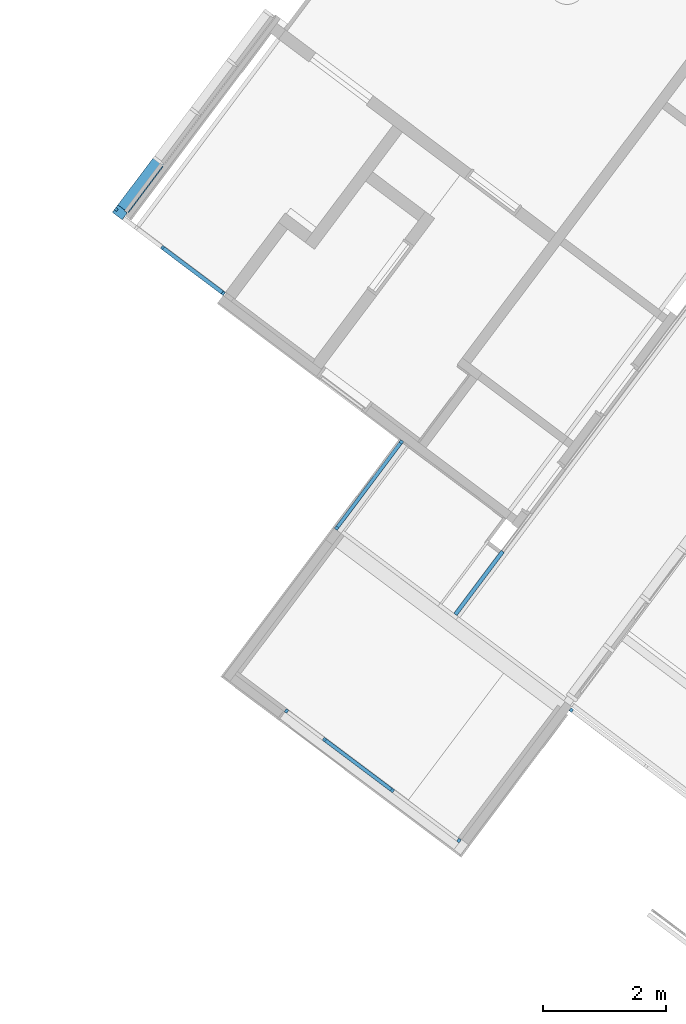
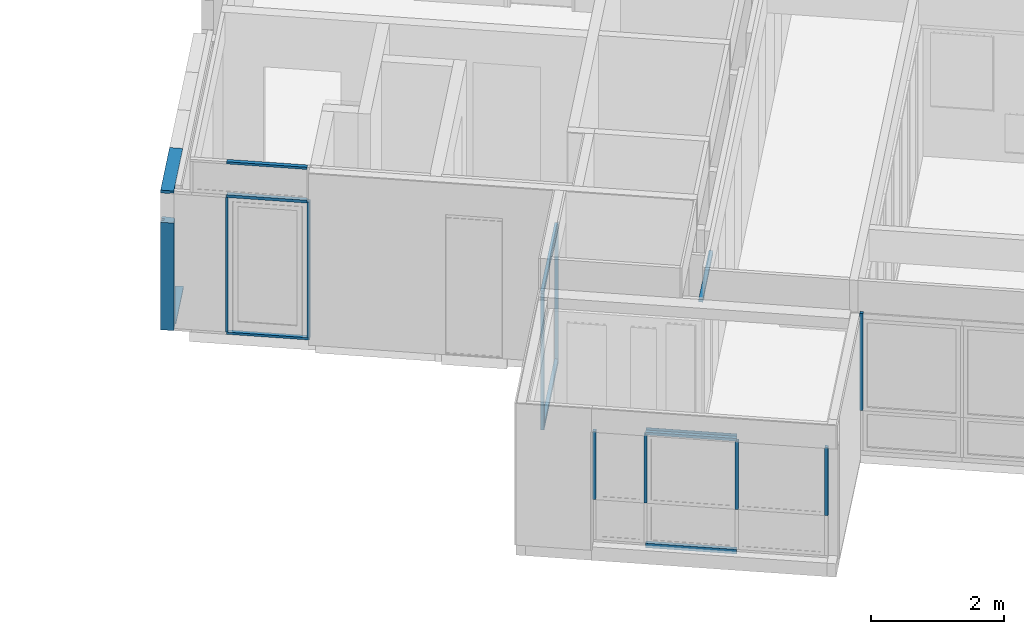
# One storey, part 8 of 243: 20 members, 6 elements without a shape of their own.
"""IFC2X3 building model written with IfcOpenShell, lengths in metres."""

from ifc_helpers import new_model, entity, si_unit, converted_unit, derived_unit, direction, frame, frame_2d, origin, origin_2d_with_axis, place, context, subcontext, project, spatial, polyline, circle_curve, parameter, trimmed, segment, composite_curve, rectangle, outline, extrude, source, transform, mapped, material, type_object, type_shapes, element, aggregate, save


model = new_model("IFC2X3")

# Units and contexts
model_context = context("Model", 3, precision=1e-05, world=origin(), true_north=direction((6.123031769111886e-17, 1.0)))
body_context = subcontext(model_context, "Body", "Model", "MODEL_VIEW")
ifc_project = project(units=[si_unit("LENGTHUNIT", "METRE"), si_unit("AREAUNIT", "SQUARE_METRE"), si_unit("VOLUMEUNIT", "CUBIC_METRE"), converted_unit("PLANEANGLEUNIT", "DEGREE", entity("IfcRatioMeasure", 0.017453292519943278), si_unit("PLANEANGLEUNIT", "RADIAN"), dimensions=[0, 0, 0, 0, 0, 0, 0]), si_unit("MASSUNIT", "GRAM", prefix="KILO"), derived_unit("MASSDENSITYUNIT", [(si_unit("MASSUNIT", "GRAM", prefix="KILO"), 1), (si_unit("LENGTHUNIT", "METRE"), -3)]), derived_unit("IONCONCENTRATIONUNIT", [(si_unit("MASSUNIT", "GRAM", prefix="KILO"), 1), (si_unit("LENGTHUNIT", "METRE"), -3)]), derived_unit("MOMENTOFINERTIAUNIT", [(si_unit("LENGTHUNIT", "METRE"), 4)]), si_unit("TIMEUNIT", "SECOND"), si_unit("FREQUENCYUNIT", "HERTZ"), si_unit("THERMODYNAMICTEMPERATUREUNIT", "DEGREE_CELSIUS"), derived_unit("THERMALTRANSMITTANCEUNIT", [(si_unit("MASSUNIT", "GRAM", prefix="KILO"), 1), (si_unit("THERMODYNAMICTEMPERATUREUNIT", "KELVIN"), -1), (si_unit("TIMEUNIT", "SECOND"), -3)]), derived_unit("THERMALCONDUCTANCEUNIT", [(si_unit("MASSUNIT", "GRAM", prefix="KILO"), 1), (si_unit("THERMODYNAMICTEMPERATUREUNIT", "KELVIN"), -1), (si_unit("TIMEUNIT", "SECOND"), -3), (si_unit("LENGTHUNIT", "METRE"), 1)]), derived_unit("VOLUMETRICFLOWRATEUNIT", [(si_unit("LENGTHUNIT", "METRE"), 3), (si_unit("TIMEUNIT", "SECOND"), -1)]), derived_unit("MASSFLOWRATEUNIT", [(si_unit("MASSUNIT", "GRAM", prefix="KILO"), 1), (si_unit("TIMEUNIT", "SECOND"), -1)]), derived_unit("ROTATIONALFREQUENCYUNIT", [(si_unit("TIMEUNIT", "SECOND"), -1)]), si_unit("ELECTRICCURRENTUNIT", "AMPERE"), si_unit("ELECTRICVOLTAGEUNIT", "VOLT"), si_unit("POWERUNIT", "WATT"), si_unit("FORCEUNIT", "NEWTON", prefix="KILO"), si_unit("ILLUMINANCEUNIT", "LUX"), si_unit("LUMINOUSFLUXUNIT", "LUMEN"), si_unit("LUMINOUSINTENSITYUNIT", "CANDELA"), derived_unit("USERDEFINED", [(si_unit("MASSUNIT", "GRAM", prefix="KILO"), -1), (si_unit("LENGTHUNIT", "METRE"), -2), (si_unit("TIMEUNIT", "SECOND"), 3), (si_unit("LUMINOUSFLUXUNIT", "LUMEN"), 1)]), derived_unit("USERDEFINED", [(si_unit("MASSUNIT", "GRAM", prefix="KILO"), 1), (si_unit("TIMEUNIT", "SECOND"), -3), (si_unit("LENGTHUNIT", "METRE"), 3), (si_unit("ELECTRICCURRENTUNIT", "AMPERE"), -2)]), derived_unit("SOUNDPOWERUNIT", [(si_unit("MASSUNIT", "GRAM", prefix="KILO"), 1), (si_unit("TIMEUNIT", "SECOND"), -3), (si_unit("LENGTHUNIT", "METRE"), 2)]), derived_unit("SOUNDPRESSUREUNIT", [(si_unit("MASSUNIT", "GRAM", prefix="KILO"), 1), (si_unit("LENGTHUNIT", "METRE"), -1), (si_unit("TIMEUNIT", "SECOND"), -2)]), derived_unit("LINEARVELOCITYUNIT", [(si_unit("LENGTHUNIT", "METRE"), 1), (si_unit("TIMEUNIT", "SECOND"), -1)]), si_unit("PRESSUREUNIT", "PASCAL"), derived_unit("USERDEFINED", [(si_unit("MASSUNIT", "GRAM", prefix="KILO"), 1), (si_unit("LENGTHUNIT", "METRE"), -2), (si_unit("TIMEUNIT", "SECOND"), -2)]), derived_unit("LINEARFORCEUNIT", [(si_unit("MASSUNIT", "GRAM", prefix="KILO"), 1), (si_unit("TIMEUNIT", "SECOND"), -2)]), derived_unit("PLANARFORCEUNIT", [(si_unit("MASSUNIT", "GRAM", prefix="KILO"), 1), (si_unit("LENGTHUNIT", "METRE"), -1), (si_unit("TIMEUNIT", "SECOND"), -2)]), derived_unit("SPECIFICHEATCAPACITYUNIT", [(si_unit("THERMODYNAMICTEMPERATUREUNIT", "KELVIN"), -1), (si_unit("LENGTHUNIT", "METRE"), 2), (si_unit("TIMEUNIT", "SECOND"), -2)]), derived_unit("HEATINGVALUEUNIT", [(si_unit("LENGTHUNIT", "METRE"), 2), (si_unit("TIMEUNIT", "SECOND"), -2)]), derived_unit("VAPORPERMEABILITYUNIT", [(si_unit("LENGTHUNIT", "METRE"), -1), (si_unit("TIMEUNIT", "SECOND"), 1)]), derived_unit("DYNAMICVISCOSITYUNIT", [(si_unit("MASSUNIT", "GRAM", prefix="KILO"), 1), (si_unit("TIMEUNIT", "SECOND"), -1), (si_unit("LENGTHUNIT", "METRE"), -1)]), derived_unit("THERMALEXPANSIONCOEFFICIENTUNIT", [(si_unit("THERMODYNAMICTEMPERATUREUNIT", "KELVIN"), -1)]), derived_unit("MODULUSOFELASTICITYUNIT", [(si_unit("MASSUNIT", "GRAM", prefix="KILO"), 1), (si_unit("LENGTHUNIT", "METRE"), -1), (si_unit("TIMEUNIT", "SECOND"), -2)]), derived_unit("ISOTHERMALMOISTURECAPACITYUNIT", [(si_unit("LENGTHUNIT", "METRE"), 3), (si_unit("MASSUNIT", "GRAM", prefix="KILO"), -1)]), derived_unit("MOISTUREDIFFUSIVITYUNIT", [(si_unit("TIMEUNIT", "SECOND"), -1), (si_unit("LENGTHUNIT", "METRE"), 2)])], contexts=[model_context])

# Site, building, storey
site_placement = place(None, frame((0.0, 0.0, 235.0), z_axis=(0.0, 0.0, 1.0), x_axis=(-0.7996477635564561, 0.6004693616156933, 0.0)))
site = spatial("IfcSite", under=ifc_project, at=site_placement, Name="Default", CompositionType="ELEMENT")
building_placement = place(site_placement, origin())
building = spatial("IfcBuilding", under=site, at=building_placement, CompositionType="ELEMENT")
storey_placement = place(building_placement, origin())
storey = spatial("IfcBuildingStorey", under=building, at=storey_placement, Name="P0- Escola", CompositionType="ELEMENT", Elevation=0.0)

# Curtain wall, member
curtain_wall_type_1 = type_object("IfcCurtainWallType", Name="Muro cortina:MC- INT- a4- 5cm", PredefinedType="NOTDEFINED")
curtain_wall_1_placement = place(storey_placement, origin())
curtain_wall_1 = element("IfcCurtainWall", 1, at=curtain_wall_1_placement, inside=storey, type_object=curtain_wall_type_1, Name="Muro cortina:MC- INT- a4- 5cm", ObjectType="Muro cortina:MC- INT- a4- 5cm")
ifc_material_1 = material(Name="_Fusta massisa- T1")
member_type_1 = type_object("IfcMemberType", Name="Montante rectangular:MC- Fusta- 15x6 cm- Neutre", PredefinedType="MULLION", material=ifc_material_1)
shared_shape_1 = source(origin(), body_context, "Body", "SweptSolid", [
    extrude(rectangle(XDim=0.06499999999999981, YDim=0.059999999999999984, at=frame_2d((4.5102810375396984e-17, 3.469446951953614e-18), x_axis=(1.0, 0.0))), frame((-0.02999999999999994, 0.0, -1.2849999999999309), z_axis=(0.0, 0.0, 1.0), x_axis=(0.0, -1.0, 0.0)), (0.0, 0.0, 1.0), 1.2849999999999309),
])
type_shapes(member_type_1, [shared_shape_1])
member_1_placement = place(curtain_wall_1_placement, frame((15.670147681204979, -18.40519175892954, 2.565), z_axis=(0.0, 1.0, 0.0), x_axis=(0.0, 0.0, 1.0)))
member_1 = element("IfcMember", 2, at=member_1_placement, type_object=member_type_1, material=ifc_material_1, Name="Montante rectangular:MC- Fusta- 15x6 cm- Neutre", ObjectType="Montante rectangular:MC- Fusta- 15x6 cm- Neutre", context=body_context, shape_type="MappedRepresentation", body=[
    mapped(shared_shape_1, transform((0.0, 0.0, 0.0), scale=1.0)),
])
aggregate(curtain_wall_1, [member_1])

# Curtain wall, members
curtain_wall_type_2 = type_object("IfcCurtainWallType", Name="Muro cortina:MC- EXT- AL3", PredefinedType="NOTDEFINED")
curtain_wall_2_placement = place(storey_placement, origin())
curtain_wall_2 = element("IfcCurtainWall", 3, at=curtain_wall_2_placement, inside=storey, type_object=curtain_wall_type_2, Name="Muro cortina:MC- EXT- AL3", ObjectType="Muro cortina:MC- EXT- AL3")
ifc_material_2 = material(Name="_Alumini- T1- Perfil")
member_type_2 = type_object("IfcMemberType", Name="Montante rectangular:MC- Alu- 50x60 cm- Fa pista- Centre", PredefinedType="MULLION", material=ifc_material_2)
shared_shape_2 = source(origin(), body_context, "Body", "SweptSolid", [
    extrude(rectangle(XDim=0.06000000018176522, YDim=0.05, at=frame_2d((-3.469446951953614e-18, 0.0), x_axis=(1.0, 0.0))), frame((-0.025, 0.030000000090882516, -1.2525000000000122), z_axis=(0.0, 0.0, 1.0), x_axis=(0.0, -1.0, 0.0)), (0.0, 0.0, 1.0), 1.2525000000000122),
])
type_shapes(member_type_2, [shared_shape_2])
member_2_placement = place(curtain_wall_2_placement, frame((13.385147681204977, -15.46019175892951, 2.0725), z_axis=(0.0, 0.0, 1.0), x_axis=(-1.0, 0.0, 0.0)))
member_2 = element("IfcMember", 4, at=member_2_placement, type_object=member_type_2, material=ifc_material_2, Name="Montante rectangular:MC- Alu- 50x60 cm- Fa pista- Centre", ObjectType="Montante rectangular:MC- Alu- 50x60 cm- Fa pista- Centre", context=body_context, shape_type="MappedRepresentation", body=[
    mapped(shared_shape_2, transform((0.0, 0.0, 0.0), scale=1.0)),
])
member_type_3 = type_object("IfcMemberType", Name="Montante rectangular:MC- Alu- 140x52,5 cm- Fa pista- Superior", PredefinedType="MULLION", material=ifc_material_2)
shared_shape_3 = source(origin(), body_context, "Body", "SweptSolid", [
    extrude(outline(polyline([(-0.02066666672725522, -0.04916666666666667), (0.03933333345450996, -0.04916666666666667), (0.03933333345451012, 0.00083333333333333), (-0.018666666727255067, 0.00083333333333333), (-0.018666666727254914, 0.04833333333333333), (-0.020666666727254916, 0.048333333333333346), (-0.02066666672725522, -0.04916666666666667)])), frame((-0.048333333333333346, 0.03933333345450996, -1.383999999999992), z_axis=(0.0, 0.0, 1.0), x_axis=(0.0, -1.0, 0.0)), (0.0, 0.0, 1.0), 1.383999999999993),
])
type_shapes(member_type_3, [shared_shape_3])
member_3_placement = place(curtain_wall_2_placement, frame((16.153147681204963, -15.460191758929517, 2.17), z_axis=(1.0, 0.0, 0.0), x_axis=(0.0, 0.0, 1.0)))
member_3 = element("IfcMember", 5, at=member_3_placement, type_object=member_type_3, material=ifc_material_2, Name="Montante rectangular:MC- Alu- 140x52,5 cm- Fa pista- Superior", ObjectType="Montante rectangular:MC- Alu- 140x52,5 cm- Fa pista- Superior", context=body_context, shape_type="MappedRepresentation", body=[
    mapped(shared_shape_3, transform((0.0, 0.0, 0.0), scale=1.0)),
])
member_type_4 = type_object("IfcMemberType", Name="Montante rectangular:MC- Alu- 50x60 cm- Fa pista- Centre", PredefinedType="MULLION", material=ifc_material_2)
shared_shape_4 = source(origin(), body_context, "Body", "SweptSolid", [
    extrude(rectangle(XDim=0.060000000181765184, YDim=0.05, at=frame_2d((3.469446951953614e-18, 0.0), x_axis=(1.0, 0.0))), frame((-0.025, 0.030000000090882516, -1.2525000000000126), z_axis=(0.0, 0.0, 1.0), x_axis=(0.0, -1.0, 0.0)), (0.0, 0.0, 1.0), 1.2525000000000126),
])
type_shapes(member_type_4, [shared_shape_4])
member_4_placement = place(curtain_wall_2_placement, frame((16.953147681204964, -15.46019175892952, 0.8199999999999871), z_axis=(0.0, 0.0, -1.0), x_axis=(1.0, 0.0, 0.0)))
member_4 = element("IfcMember", 6, at=member_4_placement, type_object=member_type_4, material=ifc_material_2, Name="Montante rectangular:MC- Alu- 50x60 cm- Fa pista- Centre", ObjectType="Montante rectangular:MC- Alu- 50x60 cm- Fa pista- Centre", context=body_context, shape_type="MappedRepresentation", body=[
    mapped(shared_shape_4, transform((0.0, 0.0, 0.0), scale=1.0)),
])
member_type_5 = type_object("IfcMemberType", Name="Montante rectangular:MC- Alu- 50x60 cm- Fa pista- Centre", PredefinedType="MULLION", material=ifc_material_2)
shared_shape_5 = source(origin(), body_context, "Body", "SweptSolid", [
    extrude(rectangle(XDim=0.0600000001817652, YDim=0.05, at=frame_2d((8.673617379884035e-18, 0.0), x_axis=(1.0, 0.0))), frame((0.0, 0.030000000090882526, -1.2525000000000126), z_axis=(0.0, 0.0, 1.0), x_axis=(0.0, -1.0, 0.0)), (0.0, 0.0, 1.0), 1.2525000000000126),
])
type_shapes(member_type_5, [shared_shape_5])
member_5_placement = place(curtain_wall_2_placement, frame((16.153147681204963, -15.460191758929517, 0.8199999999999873), z_axis=(0.0, 0.0, -1.0), x_axis=(1.0, 0.0, 0.0)))
member_5 = element("IfcMember", 7, at=member_5_placement, type_object=member_type_5, material=ifc_material_2, Name="Montante rectangular:MC- Alu- 50x60 cm- Fa pista- Centre", ObjectType="Montante rectangular:MC- Alu- 50x60 cm- Fa pista- Centre", context=body_context, shape_type="MappedRepresentation", body=[
    mapped(shared_shape_5, transform((0.0, 0.0, 0.0), scale=1.0)),
])
member_6_placement = place(curtain_wall_2_placement, frame((14.76914768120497, -15.460191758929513, 0.8199999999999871), z_axis=(0.0, 0.0, -1.0), x_axis=(1.0, 0.0, 0.0)))
member_6 = element("IfcMember", 8, at=member_6_placement, type_object=member_type_5, material=ifc_material_2, Name="Montante rectangular:MC- Alu- 50x60 cm- Fa pista- Centre", ObjectType="Montante rectangular:MC- Alu- 50x60 cm- Fa pista- Centre", context=body_context, shape_type="MappedRepresentation", body=[
    mapped(shared_shape_5, transform((0.0, 0.0, 0.0), scale=1.0)),
])
member_type_6 = type_object("IfcMemberType", Name="Montante rectangular:MC- Alu- 52x80 cm- Fa pista- inferior", PredefinedType="MULLION", material=ifc_material_2)
shared_shape_6 = source(origin(), body_context, "Body", "SweptSolid", [
    extrude(rectangle(XDim=0.06000000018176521, YDim=0.08500000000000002, at=frame_2d((-5.204170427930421e-18, -6.938893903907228e-18), x_axis=(1.0, 0.0))), frame((-0.0425, 0.030000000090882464, -1.3839999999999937), z_axis=(0.0, 0.0, 1.0), x_axis=(0.0, -1.0, 0.0)), (0.0, 0.0, 1.0), 1.383999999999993),
])
type_shapes(member_type_6, [shared_shape_6])
member_7_placement = place(curtain_wall_2_placement, frame((14.76914768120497, -15.460191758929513, 0.0), z_axis=(-1.0, 0.0, 0.0), x_axis=(0.0, 0.0, -1.0)))
member_7 = element("IfcMember", 9, at=member_7_placement, type_object=member_type_6, material=ifc_material_2, Name="Montante rectangular:MC- Alu- 52x80 cm- Fa pista- inferior", ObjectType="Montante rectangular:MC- Alu- 52x80 cm- Fa pista- inferior", context=body_context, shape_type="MappedRepresentation", body=[
    mapped(shared_shape_6, transform((0.0, 0.0, 0.0), scale=1.0)),
])
aggregate(curtain_wall_2, [member_2, member_3, member_4, member_5, member_7, member_6])

curtain_wall_type_3 = type_object("IfcCurtainWallType", Name="Muro cortina:MC- EXT- AL1- Fa porxo", PredefinedType="NOTDEFINED")
curtain_wall_3_placement = place(storey_placement, origin())
curtain_wall_3 = element("IfcCurtainWall", 10, at=curtain_wall_3_placement, inside=storey, type_object=curtain_wall_type_3, Name="Muro cortina:MC- EXT- AL1- Fa porxo", ObjectType="Muro cortina:MC- EXT- AL1- Fa porxo")
member_type_7 = type_object("IfcMemberType", Name="Montante rectangular:MC- Alu- 65x41 cm- Fa Porxo- Centre", PredefinedType="MULLION", material=ifc_material_2)
shared_shape_7 = source(origin(), body_context, "Body", "SweptSolid", [
    extrude(rectangle(XDim=0.06500000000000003, YDim=0.041000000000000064, at=frame_2d((0.0, -8.673617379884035e-18), x_axis=(1.0, 0.0))), frame((-0.020500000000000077, -0.032499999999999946, -2.4977500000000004), z_axis=(0.0, 0.0, 1.0), x_axis=(0.0, -1.0, 0.0)), (0.0, 0.0, 1.0), 2.4977500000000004),
])
type_shapes(member_type_7, [shared_shape_7])
member_8_placement = place(curtain_wall_3_placement, frame((21.825147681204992, -20.288941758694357, 0.021000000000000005), z_axis=(0.0, 0.0, -1.0), x_axis=(-1.0, 0.0, 0.0)))
member_8 = element("IfcMember", 11, at=member_8_placement, type_object=member_type_7, material=ifc_material_2, Name="Montante rectangular:MC- Alu- 65x41 cm- Fa Porxo- Centre", ObjectType="Montante rectangular:MC- Alu- 65x41 cm- Fa Porxo- Centre", context=body_context, shape_type="MappedRepresentation", body=[
    mapped(shared_shape_7, transform((0.0, 0.0, 0.0), scale=1.0)),
])
member_type_8 = type_object("IfcMemberType", Name="Montante rectangular:MC- Alu- 65x41 cm- Fa Porxo- Centre", PredefinedType="MULLION", material=ifc_material_2)
shared_shape_8 = source(origin(), body_context, "Body", "SweptSolid", [
    extrude(rectangle(XDim=0.06500000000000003, YDim=0.04100000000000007, at=frame_2d((0.0, -8.673617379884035e-18), x_axis=(1.0, 0.0))), frame((0.0, -0.032499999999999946, -2.4712500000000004), z_axis=(0.0, 0.0, 1.0), x_axis=(0.0, -1.0, 0.0)), (0.0, 0.0, 1.0), 2.4712500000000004),
])
type_shapes(member_type_8, [shared_shape_8])
member_9_placement = place(curtain_wall_3_placement, frame((23.085147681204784, -20.288941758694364, 0.02099999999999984), z_axis=(0.0, 0.0, -1.0), x_axis=(-1.0, 0.0, 0.0)))
member_9 = element("IfcMember", 12, at=member_9_placement, type_object=member_type_8, material=ifc_material_2, Name="Montante rectangular:MC- Alu- 65x41 cm- Fa Porxo- Centre", ObjectType="Montante rectangular:MC- Alu- 65x41 cm- Fa Porxo- Centre", context=body_context, shape_type="MappedRepresentation", body=[
    mapped(shared_shape_8, transform((0.0, 0.0, 0.0), scale=1.0)),
])

curtain_wall_type_4 = type_object("IfcCurtainWallType", Name="Muro cortina:MC- EXT- MC2", PredefinedType="NOTDEFINED")
curtain_wall_4_placement = place(storey_placement, origin())
curtain_wall_4 = element("IfcCurtainWall", 13, at=curtain_wall_4_placement, inside=storey, type_object=curtain_wall_type_4, Name="Muro cortina:MC- EXT- MC2", ObjectType="Muro cortina:MC- EXT- MC2")
member_type_9 = type_object("IfcMemberType", Name="Montante rectangular:MC- Alu- 140x52,5 cm- Fa patis- inferior", PredefinedType="MULLION", material=ifc_material_2)
shared_shape_9 = source(origin(), body_context, "Body", "SweptSolid", [
    extrude(outline(composite_curve([segment(polyline([(-0.144167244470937, -0.02586710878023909), (-0.12786724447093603, -0.025867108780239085)]), True, "CONTINUOUS"), segment(polyline([(-0.12786724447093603, -0.025867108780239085), (-0.12786724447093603, -0.02316710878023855)]), True, "CONTINUOUS"), segment(polyline([(-0.12786724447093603, -0.02316710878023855), (-0.0678672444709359, -0.02316710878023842)]), True, "CONTINUOUS"), segment(polyline([(-0.0678672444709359, -0.02316710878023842), (0.07031215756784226, -0.010722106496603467)]), True, "CONTINUOUS"), segment(trimmed(circle_curve(frame_2d((0.07013275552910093, -0.008730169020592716), x_axis=(0.0897010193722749, -0.9959687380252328)), 0.0019999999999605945), [parameter(0.0)], [parameter(84.8535928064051)], True, "PARAMETER"), True, "CONTINUOUS"), segment(polyline([(0.07213275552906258, -0.00873016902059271), (0.07213275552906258, 0.0062663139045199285)]), True, "CONTINUOUS"), segment(trimmed(circle_curve(frame_2d((0.070132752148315, 0.006266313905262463), x_axis=(1.0, 0.0)), 0.002000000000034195), [parameter(0.0)], [parameter(90.00000002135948)], True, "PARAMETER"), True, "CONTINUOUS"), segment(polyline([(0.070132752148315, 0.00826631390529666), (0.06213275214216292, 0.008266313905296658)]), True, "CONTINUOUS"), segment(polyline([(0.06213275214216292, 0.008266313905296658), (0.06213275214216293, 0.006266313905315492)]), True, "CONTINUOUS"), segment(polyline([(0.06213275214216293, 0.006266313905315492), (0.06963275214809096, 0.006266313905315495)]), True, "CONTINUOUS"), segment(trimmed(circle_curve(frame_2d((0.06963275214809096, 0.005766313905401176), x_axis=(0.0, 1.0)), 0.0004999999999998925), [parameter(269.99999999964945)], [parameter(0.0)], True, "PARAMETER"), False, "CONTINUOUS"), segment(polyline([(0.07013275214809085, 0.0057663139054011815), (0.07013275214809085, -0.008730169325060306)]), True, "CONTINUOUS"), segment(polyline([(0.07013275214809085, -0.008730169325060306), (0.03213275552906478, -0.012152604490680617)]), True, "CONTINUOUS"), segment(polyline([(0.03213275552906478, -0.012152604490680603), (0.03213275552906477, 0.02913289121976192)]), True, "CONTINUOUS"), segment(polyline([(0.03213275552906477, 0.02913289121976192), (0.0021327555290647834, 0.02913289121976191)]), True, "CONTINUOUS"), segment(polyline([(0.0021327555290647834, 0.02913289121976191), (0.0021327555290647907, 0.027132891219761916)]), True, "CONTINUOUS"), segment(polyline([(0.0021327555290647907, 0.027132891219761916), (0.03013275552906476, 0.027132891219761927)]), True, "CONTINUOUS"), segment(polyline([(0.03013275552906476, 0.02713289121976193), (0.03013275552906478, -0.012332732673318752)]), True, "CONTINUOUS"), segment(polyline([(0.03013275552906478, -0.012332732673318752), (-0.06786724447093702, -0.021159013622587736)]), True, "CONTINUOUS"), segment(polyline([(-0.06786724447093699, -0.021159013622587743), (-0.067867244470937, 0.0091328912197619)]), True, "CONTINUOUS"), segment(polyline([(-0.06786724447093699, 0.0091328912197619), (-0.14416724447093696, 0.009132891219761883)]), True, "CONTINUOUS"), segment(polyline([(-0.14416724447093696, 0.009132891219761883), (-0.144167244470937, -0.02586710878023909)]), True, "CONTINUOUS")], self_intersect=False)), frame((-0.029132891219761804, -0.06786724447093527, -0.9474999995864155), z_axis=(0.0, 0.0, 1.0), x_axis=(0.0, -1.0, 0.0)), (0.0, 0.0, 1.0), 0.9474999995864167),
])
type_shapes(member_type_9, [shared_shape_9])
member_10_placement = place(curtain_wall_4_placement, frame((23.945147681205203, -20.441441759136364, -0.02), z_axis=(0.0, 1.0, 0.0), x_axis=(0.0, 0.0, -1.0)))
member_10 = element("IfcMember", 14, at=member_10_placement, type_object=member_type_9, material=ifc_material_2, Name="Montante rectangular:MC- Alu- 140x52,5 cm- Fa patis- inferior", ObjectType="Montante rectangular:MC- Alu- 140x52,5 cm- Fa patis- inferior", context=body_context, shape_type="MappedRepresentation", body=[
    mapped(shared_shape_9, transform((0.0, 0.0, 0.0), scale=1.0)),
])
member_type_10 = type_object("IfcMemberType", Name="Montante rectangular:MC- Alu- 140x52,5 cm- Fa patis- Superior", PredefinedType="MULLION", material=ifc_material_2)
shared_shape_10 = source(origin(), body_context, "Body", "SweptSolid", [
    extrude(outline(polyline([(-0.026333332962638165, -0.021249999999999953), (0.11366666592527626, -0.021249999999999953), (0.11366666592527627, 0.031250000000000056), (-0.08733333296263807, 0.03125000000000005), (-0.0873333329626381, -0.010000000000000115), (-0.026333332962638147, -0.010000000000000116), (-0.026333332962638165, -0.021249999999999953)])), frame((-0.031250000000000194, -0.02733333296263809, -1.1262500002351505), z_axis=(0.0, 0.0, 1.0), x_axis=(0.0, -1.0, 0.0)), (0.0, 0.0, 1.0), 1.1262500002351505),
])
type_shapes(member_type_10, [shared_shape_10])
member_11_placement = place(curtain_wall_4_placement, frame((23.945147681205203, -21.415191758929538, 2.545), z_axis=(0.0, -1.0, 0.0), x_axis=(0.0, 0.0, 1.0)))
member_11 = element("IfcMember", 15, at=member_11_placement, type_object=member_type_10, material=ifc_material_2, Name="Montante rectangular:MC- Alu- 140x52,5 cm- Fa patis- Superior", ObjectType="Montante rectangular:MC- Alu- 140x52,5 cm- Fa patis- Superior", context=body_context, shape_type="MappedRepresentation", body=[
    mapped(shared_shape_10, transform((0.0, 0.0, 0.0), scale=1.0)),
])
member_type_11 = type_object("IfcMemberType", Name="Montante rectangular:MC- Alu- 140x52,5 cm- Fa patis- Cantonada", PredefinedType="MULLION", material=ifc_material_2)
shared_shape_11 = source(origin(), body_context, "Body", "SweptSolid", [
    extrude(outline(polyline([(-0.04333333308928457, -0.05708333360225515), (0.09566666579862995, -0.05708333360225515), (0.09566666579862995, -0.004583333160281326), (0.05066666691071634, -0.004583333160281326), (0.050666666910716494, 0.042916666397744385), (0.09566666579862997, 0.042916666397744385), (0.09566666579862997, 0.09541666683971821), (-0.1043333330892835, 0.09541666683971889), (-0.1043333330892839, -0.03083333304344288), (-0.09433333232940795, -0.030833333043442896), (-0.094333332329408, -0.04583333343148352), (-0.04333333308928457, -0.0458333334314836), (-0.04333333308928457, -0.05708333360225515)])), frame((-0.09541666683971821, -0.0443333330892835, -1.9749999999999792), z_axis=(0.0, 0.0, 1.0), x_axis=(0.0, -1.0, 0.0)), (0.0, 0.0, 1.0), 1.9749999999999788),
])
type_shapes(member_type_11, [shared_shape_11])
member_12_placement = place(curtain_wall_4_placement, frame((23.945147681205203, -20.28894175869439, 1.954999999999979), z_axis=(0.0, 0.0, 1.0), x_axis=(0.0, 1.0, 0.0)))
member_12 = element("IfcMember", 16, at=member_12_placement, type_object=member_type_11, material=ifc_material_2, Name="Montante rectangular:MC- Alu- 140x52,5 cm- Fa patis- Cantonada", ObjectType="Montante rectangular:MC- Alu- 140x52,5 cm- Fa patis- Cantonada", context=body_context, shape_type="MappedRepresentation", body=[
    mapped(shared_shape_11, transform((0.0, 0.0, 0.0), scale=1.0)),
])
aggregate(curtain_wall_4, [member_10, member_11, member_12])

# Member
member_type_12 = type_object("IfcMemberType", Name="Montante rectangular:MC- Alu- 65x41 cm- Fa Porxo- Centre", PredefinedType="MULLION", material=ifc_material_2)
shared_shape_12 = source(origin(), body_context, "Body", "SweptSolid", [
    extrude(rectangle(XDim=0.06500000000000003, YDim=0.041000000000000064, at=frame_2d((0.0, -8.673617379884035e-18), x_axis=(1.0, 0.0))), frame((-0.020500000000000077, -0.032499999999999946, -1.2189999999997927), z_axis=(0.0, 0.0, 1.0), x_axis=(0.0, -1.0, 0.0)), (0.0, 0.0, 1.0), 1.2189999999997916),
])
type_shapes(member_type_12, [shared_shape_12])
member_13_placement = place(curtain_wall_3_placement, frame((21.866147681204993, -20.288941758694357, 3.150000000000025), z_axis=(-1.0, 0.0, 0.0), x_axis=(0.0, 0.0, 1.0)))
member_13 = element("IfcMember", 17, at=member_13_placement, type_object=member_type_12, material=ifc_material_2, Name="Montante rectangular:MC- Alu- 65x41 cm- Fa Porxo- Centre", ObjectType="Montante rectangular:MC- Alu- 65x41 cm- Fa Porxo- Centre", context=body_context, shape_type="MappedRepresentation", body=[
    mapped(shared_shape_12, transform((0.0, 0.0, 0.0), scale=1.0)),
])

member_type_13 = type_object("IfcMemberType", Name="Montante rectangular:MC- Alu- 65x41 cm- Fa Porxo- Centre", PredefinedType="MULLION", material=ifc_material_2)
shared_shape_13 = source(origin(), body_context, "Body", "SweptSolid", [
    extrude(rectangle(XDim=0.06500000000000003, YDim=0.041000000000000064, at=frame_2d((3.469446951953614e-18, -5.204170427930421e-18), x_axis=(1.0, 0.0))), frame((-0.020499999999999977, -0.032499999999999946, -1.259999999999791), z_axis=(0.0, 0.0, 1.0), x_axis=(0.0, -1.0, 0.0)), (0.0, 0.0, 1.0), 1.2599999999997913),
])
type_shapes(member_type_13, [shared_shape_13])
member_14_placement = place(curtain_wall_3_placement, frame((23.085147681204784, -20.288941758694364, -0.02000000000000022), z_axis=(1.0, 0.0, 0.0), x_axis=(0.0, 0.0, -1.0)))
member_14 = element("IfcMember", 18, at=member_14_placement, type_object=member_type_13, material=ifc_material_2, Name="Montante rectangular:MC- Alu- 65x41 cm- Fa Porxo- Centre", ObjectType="Montante rectangular:MC- Alu- 65x41 cm- Fa Porxo- Centre", context=body_context, shape_type="MappedRepresentation", body=[
    mapped(shared_shape_13, transform((0.0, 0.0, 0.0), scale=1.0)),
])

member_type_14 = type_object("IfcMemberType", Name="Montante rectangular:MC- Alu- 65x52,5 cm- Fa Porxo- Centre", PredefinedType="MULLION", material=ifc_material_2)
shared_shape_14 = source(origin(), body_context, "Body", "SweptSolid", [
    extrude(rectangle(XDim=0.06500000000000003, YDim=0.05300000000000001, at=frame_2d((3.469446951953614e-18, 3.469446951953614e-18), x_axis=(1.0, 0.0))), frame((0.0, -0.03249999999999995, -1.2189999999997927), z_axis=(0.0, 0.0, 1.0), x_axis=(0.0, -1.0, 0.0)), (0.0, 0.0, 1.0), 1.2189999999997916),
])
type_shapes(member_type_14, [shared_shape_14])
member_15_placement = place(curtain_wall_3_placement, frame((21.866147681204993, -20.288941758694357, 2.51875), z_axis=(-1.0, 0.0, 0.0), x_axis=(0.0, 0.0, 1.0)))
member_15 = element("IfcMember", 19, at=member_15_placement, type_object=member_type_14, material=ifc_material_2, Name="Montante rectangular:MC- Alu- 65x52,5 cm- Fa Porxo- Centre", ObjectType="Montante rectangular:MC- Alu- 65x52,5 cm- Fa Porxo- Centre", context=body_context, shape_type="MappedRepresentation", body=[
    mapped(shared_shape_14, transform((0.0, 0.0, 0.0), scale=1.0)),
])

aggregate(curtain_wall_3, [member_13, member_8, member_14, member_15, member_9])

# Curtain wall, members
curtain_wall_5_placement = place(storey_placement, origin())
curtain_wall_5 = element("IfcCurtainWall", 20, at=curtain_wall_5_placement, inside=storey, type_object=curtain_wall_type_2, Name="Muro cortina:MC- EXT- AL3", ObjectType="Muro cortina:MC- EXT- AL3")
member_type_15 = type_object("IfcMemberType", Name="Montante rectangular:MC- Alu- 140x52,5 cm- Fa pista- Superior", PredefinedType="MULLION", material=ifc_material_2)
shared_shape_15 = source(origin(), body_context, "Body", "SweptSolid", [
    extrude(outline(polyline([(-0.03933333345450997, -0.04916666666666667), (0.02066666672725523, -0.04916666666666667), (0.020666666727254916, 0.048333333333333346), (0.018666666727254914, 0.04833333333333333), (0.018666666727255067, 0.00083333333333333), (-0.03933333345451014, 0.00083333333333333), (-0.03933333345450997, -0.04916666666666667)])), frame((-0.048333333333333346, -0.03933333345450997, -1.8089999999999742), z_axis=(0.0, 0.0, 1.0), x_axis=(0.0, -1.0, 0.0)), (0.0, 0.0, 1.0), 1.8089999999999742),
])
type_shapes(member_type_15, [shared_shape_15])
member_16_placement = place(curtain_wall_5_placement, frame((18.09514768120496, -18.341191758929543, 2.6000000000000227), z_axis=(0.0, 1.0, 0.0), x_axis=(0.0, 0.0, 1.0)))
member_16 = element("IfcMember", 21, at=member_16_placement, type_object=member_type_15, material=ifc_material_2, Name="Montante rectangular:MC- Alu- 140x52,5 cm- Fa pista- Superior", ObjectType="Montante rectangular:MC- Alu- 140x52,5 cm- Fa pista- Superior", context=body_context, shape_type="MappedRepresentation", body=[
    mapped(shared_shape_15, transform((0.0, 0.0, 0.0), scale=1.0)),
])
member_type_16 = type_object("IfcMemberType", Name="Montante rectangular:MC- Alu- 52x80 cm- Fa pista- inferior", PredefinedType="MULLION", material=ifc_material_2)
shared_shape_16 = source(origin(), body_context, "Body", "SweptSolid", [
    extrude(rectangle(XDim=0.06000000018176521, YDim=0.085, at=origin_2d_with_axis()), frame((-0.0425, -0.030000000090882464, -1.708999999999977), z_axis=(0.0, 0.0, 1.0), x_axis=(0.0, -1.0, 0.0)), (0.0, 0.0, 1.0), 1.7089999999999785),
])
type_shapes(member_type_16, [shared_shape_16])
member_17_placement = place(curtain_wall_5_placement, frame((18.095147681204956, -20.100191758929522, 0.0), z_axis=(0.0, -1.0, 0.0), x_axis=(0.0, 0.0, -1.0)))
member_17 = element("IfcMember", 22, at=member_17_placement, type_object=member_type_16, material=ifc_material_2, Name="Montante rectangular:MC- Alu- 52x80 cm- Fa pista- inferior", ObjectType="Montante rectangular:MC- Alu- 52x80 cm- Fa pista- inferior", context=body_context, shape_type="MappedRepresentation", body=[
    mapped(shared_shape_16, transform((0.0, 0.0, 0.0), scale=1.0)),
])
member_type_17 = type_object("IfcMemberType", Name="Montante rectangular:MC- Alu- 50x60 cm- Fa pista- Centre", PredefinedType="MULLION", material=ifc_material_2)
shared_shape_17 = source(origin(), body_context, "Body", "SweptSolid", [
    extrude(rectangle(XDim=0.06000000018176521, YDim=0.05, at=frame_2d((3.469446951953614e-18, 0.0), x_axis=(1.0, 0.0))), frame((-0.025, -0.030000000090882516, -2.502500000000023), z_axis=(0.0, 0.0, 1.0), x_axis=(0.0, -1.0, 0.0)), (0.0, 0.0, 1.0), 2.502500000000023),
])
type_shapes(member_type_17, [shared_shape_17])
member_18_placement = place(curtain_wall_5_placement, frame((18.09514768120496, -18.341191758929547, 0.0), z_axis=(0.0, 0.0, -1.0), x_axis=(0.0, 1.0, 0.0)))
member_18 = element("IfcMember", 23, at=member_18_placement, type_object=member_type_17, material=ifc_material_2, Name="Montante rectangular:MC- Alu- 50x60 cm- Fa pista- Centre", ObjectType="Montante rectangular:MC- Alu- 50x60 cm- Fa pista- Centre", context=body_context, shape_type="MappedRepresentation", body=[
    mapped(shared_shape_17, transform((0.0, 0.0, 0.0), scale=1.0)),
])
member_type_18 = type_object("IfcMemberType", Name="Montante rectangular:MC- Alu- 50x60 cm- Fa pista- Centre", PredefinedType="MULLION", material=ifc_material_2)
shared_shape_18 = source(origin(), body_context, "Body", "SweptSolid", [
    extrude(rectangle(XDim=0.0600000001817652, YDim=0.05, at=origin_2d_with_axis()), frame((-0.025, -0.030000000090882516, -2.502500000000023), z_axis=(0.0, 0.0, 1.0), x_axis=(0.0, -1.0, 0.0)), (0.0, 0.0, 1.0), 2.502500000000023),
])
type_shapes(member_type_18, [shared_shape_18])
member_19_placement = place(curtain_wall_5_placement, frame((18.095147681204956, -20.15019175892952, 2.502500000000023), z_axis=(0.0, 0.0, 1.0), x_axis=(0.0, -1.0, 0.0)))
member_19 = element("IfcMember", 24, at=member_19_placement, type_object=member_type_18, material=ifc_material_2, Name="Montante rectangular:MC- Alu- 50x60 cm- Fa pista- Centre", ObjectType="Montante rectangular:MC- Alu- 50x60 cm- Fa pista- Centre", context=body_context, shape_type="MappedRepresentation", body=[
    mapped(shared_shape_18, transform((0.0, 0.0, 0.0), scale=1.0)),
])
aggregate(curtain_wall_5, [member_16, member_17, member_18, member_19])

# Curtain wall, member
curtain_wall_6_placement = place(storey_placement, origin())
curtain_wall_6 = element("IfcCurtainWall", 25, at=curtain_wall_6_placement, inside=storey, type_object=curtain_wall_type_2, Name="Muro cortina:MC- EXT- AL3", ObjectType="Muro cortina:MC- EXT- AL3")
member_type_19 = type_object("IfcMemberType", Name="Montante rectangular:MC- Alu- 50x60 cm- Fa pista- Centre", PredefinedType="MULLION", material=ifc_material_2)
shared_shape_19 = source(origin(), body_context, "Body", "SweptSolid", [
    extrude(rectangle(XDim=0.06000000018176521, YDim=0.05, at=frame_2d((3.469446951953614e-18, 0.0), x_axis=(1.0, 0.0))), frame((-0.025, -0.030000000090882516, -1.7800000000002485), z_axis=(0.0, 0.0, 1.0), x_axis=(0.0, -1.0, 0.0)), (0.0, 0.0, 1.0), 1.7800000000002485),
])
type_shapes(member_type_19, [shared_shape_19])
member_20_placement = place(curtain_wall_6_placement, frame((13.24514768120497, -18.32199175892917, 0.8199999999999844), z_axis=(0.0, 0.0, -1.0), x_axis=(1.0, 0.0, 0.0)))
member_20 = element("IfcMember", 26, at=member_20_placement, type_object=member_type_19, material=ifc_material_2, Name="Montante rectangular:MC- Alu- 50x60 cm- Fa pista- Centre", ObjectType="Montante rectangular:MC- Alu- 50x60 cm- Fa pista- Centre", context=body_context, shape_type="MappedRepresentation", body=[
    mapped(shared_shape_19, transform((0.0, 0.0, 0.0), scale=1.0)),
])
aggregate(curtain_wall_6, [member_20])

save(model, "model.ifc")
